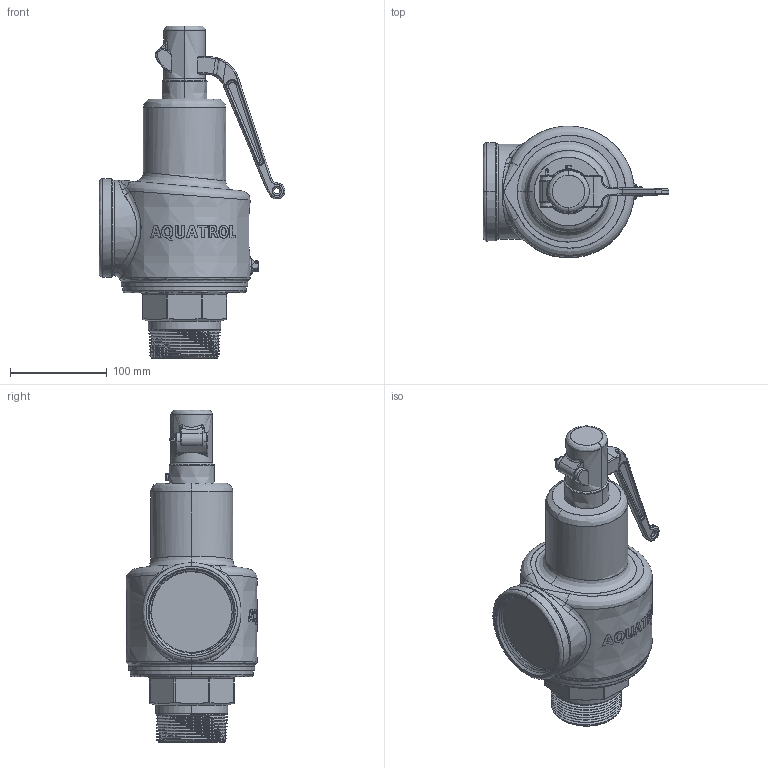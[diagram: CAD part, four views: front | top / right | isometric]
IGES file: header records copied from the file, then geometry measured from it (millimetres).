
Start section: SolidWorks IGES file using analytic representation for surfaces
Global section: file name: C:\Design\Design\Aquatrol\Customer 3D Files\Series 88 Customer Files\Series 88 2500 x 3000\Customer\Series 88 2500 x 3000.IGS; native system: SolidWorks 2015; preprocessor: SolidWorks 2015; author: Karl; date: 141208.102052; units: inch
Bounding box: 191.61 x 136.01 x 342.49 mm (x, y, z)
Surface area: 148603.4 mm2 (no closed solid volume)
Topology: 0 solids, 0 shells, 388 faces, 7662 edges, 7660 vertices
Faces by surface type: bspline 241, revolution 147
